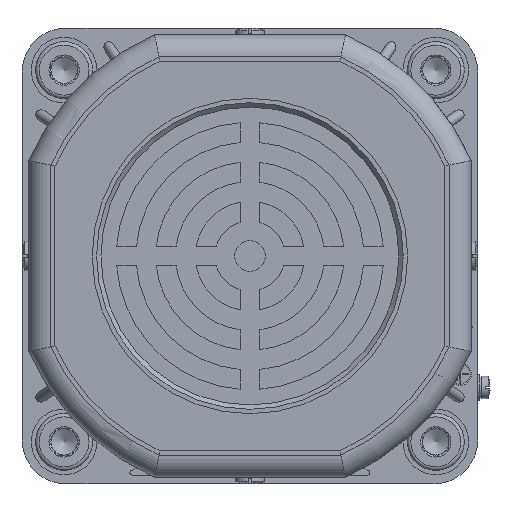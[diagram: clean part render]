
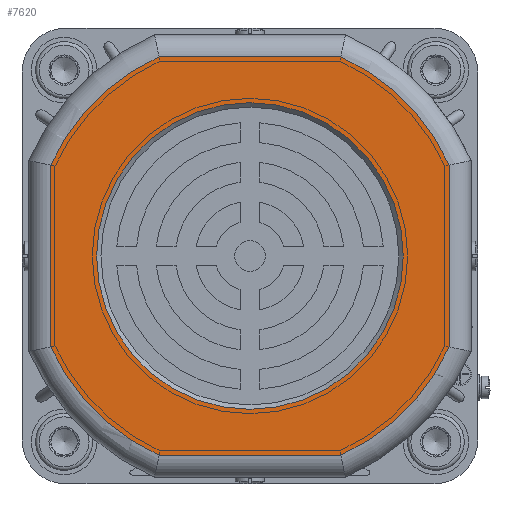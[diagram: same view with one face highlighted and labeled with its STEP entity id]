
A CAD part, left-side view. The second image highlights one B-rep face of the part: STEP entity #7620.
In plain terms, the highlighted planar face has unit normal (-1, 0, 0).
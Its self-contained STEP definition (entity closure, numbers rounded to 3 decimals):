
#2093=FACE_BOUND('',#11256,.T.);
#2094=FACE_BOUND('',#11257,.T.);
#3694=PLANE('',#30698);
#4590=LINE('',#43590,#6105);
#4591=LINE('',#43595,#6106);
#4592=LINE('',#43599,#6107);
#4593=LINE('',#43603,#6108);
#6105=VECTOR('',#34463,1.);
#6106=VECTOR('',#34466,1.);
#6107=VECTOR('',#34469,1.);
#6108=VECTOR('',#34472,1.);
#7620=ADVANCED_FACE('',(#2093,#2094),#3694,.F.);
#11256=EDGE_LOOP('',(#14689,#14690,#14691,#14692,#14693,#14694,#14695,#14696));
#11257=EDGE_LOOP('',(#14697));
#14689=ORIENTED_EDGE('',*,*,#25076,.T.);
#14690=ORIENTED_EDGE('',*,*,#25077,.T.);
#14691=ORIENTED_EDGE('',*,*,#25078,.T.);
#14692=ORIENTED_EDGE('',*,*,#25079,.T.);
#14693=ORIENTED_EDGE('',*,*,#25080,.T.);
#14694=ORIENTED_EDGE('',*,*,#25081,.T.);
#14695=ORIENTED_EDGE('',*,*,#25082,.T.);
#14696=ORIENTED_EDGE('',*,*,#25083,.T.);
#14697=ORIENTED_EDGE('',*,*,#25084,.T.);
#22001=VERTEX_POINT('',#43591);
#22002=VERTEX_POINT('',#43592);
#22003=VERTEX_POINT('',#43594);
#22004=VERTEX_POINT('',#43596);
#22005=VERTEX_POINT('',#43598);
#22006=VERTEX_POINT('',#43600);
#22007=VERTEX_POINT('',#43602);
#22008=VERTEX_POINT('',#43604);
#22009=VERTEX_POINT('',#43607);
#25076=EDGE_CURVE('',#22001,#22002,#4590,.T.);
#25077=EDGE_CURVE('',#22002,#22003,#29006,.T.);
#25078=EDGE_CURVE('',#22003,#22004,#4591,.T.);
#25079=EDGE_CURVE('',#22004,#22005,#29007,.T.);
#25080=EDGE_CURVE('',#22005,#22006,#4592,.T.);
#25081=EDGE_CURVE('',#22006,#22007,#29008,.T.);
#25082=EDGE_CURVE('',#22007,#22008,#4593,.T.);
#25083=EDGE_CURVE('',#22008,#22001,#29009,.T.);
#25084=EDGE_CURVE('',#22009,#22009,#29010,.T.);
#29006=CIRCLE('',#30693,50.);
#29007=CIRCLE('',#30694,50.);
#29008=CIRCLE('',#30695,50.);
#29009=CIRCLE('',#30696,50.);
#29010=CIRCLE('',#30697,35.);
#30693=AXIS2_PLACEMENT_3D('',#43593,#34464,#34465);
#30694=AXIS2_PLACEMENT_3D('',#43597,#34467,#34468);
#30695=AXIS2_PLACEMENT_3D('',#43601,#34470,#34471);
#30696=AXIS2_PLACEMENT_3D('',#43605,#34473,#34474);
#30697=AXIS2_PLACEMENT_3D('',#43606,#34475,#34476);
#30698=AXIS2_PLACEMENT_3D('',#43608,#34477,#34478);
#34463=DIRECTION('',(0.,-1.,0.));
#34464=DIRECTION('',(-1.,0.,0.));
#34465=DIRECTION('',(0.,0.,1.));
#34466=DIRECTION('',(0.,0.,1.));
#34467=DIRECTION('',(-1.,0.,0.));
#34468=DIRECTION('',(0.,0.,1.));
#34469=DIRECTION('',(0.,1.,0.));
#34470=DIRECTION('',(-1.,0.,0.));
#34471=DIRECTION('',(0.,0.,1.));
#34472=DIRECTION('',(0.,0.,-1.));
#34473=DIRECTION('',(-1.,0.,0.));
#34474=DIRECTION('',(0.,0.,1.));
#34475=DIRECTION('',(1.,0.,0.));
#34476=DIRECTION('',(0.,-1.,0.));
#34477=DIRECTION('',(1.,0.,0.));
#34478=DIRECTION('',(0.,0.,1.));
#43590=CARTESIAN_POINT('',(-227.8,-142.46,-103.991));
#43591=CARTESIAN_POINT('',(-227.8,-99.941,-103.991));
#43592=CARTESIAN_POINT('',(-227.8,-141.402,-103.991));
#43593=CARTESIAN_POINT('',(-227.8,-120.671,-58.491));
#43594=CARTESIAN_POINT('',(-227.8,-166.171,-79.221));
#43595=CARTESIAN_POINT('',(-227.8,-166.171,-36.702));
#43596=CARTESIAN_POINT('',(-227.8,-166.171,-37.76));
#43597=CARTESIAN_POINT('',(-227.8,-120.671,-58.491));
#43598=CARTESIAN_POINT('',(-227.8,-141.402,-12.991));
#43599=CARTESIAN_POINT('',(-227.8,-98.882,-12.991));
#43600=CARTESIAN_POINT('',(-227.8,-99.941,-12.991));
#43601=CARTESIAN_POINT('',(-227.8,-120.671,-58.491));
#43602=CARTESIAN_POINT('',(-227.8,-75.171,-37.76));
#43603=CARTESIAN_POINT('',(-227.8,-75.171,-80.28));
#43604=CARTESIAN_POINT('',(-227.8,-75.171,-79.221));
#43605=CARTESIAN_POINT('',(-227.8,-120.671,-58.491));
#43606=CARTESIAN_POINT('',(-227.8,-120.671,-58.491));
#43607=CARTESIAN_POINT('',(-227.8,-155.671,-58.491));
#43608=CARTESIAN_POINT('',(-227.8,-120.671,-58.491));
